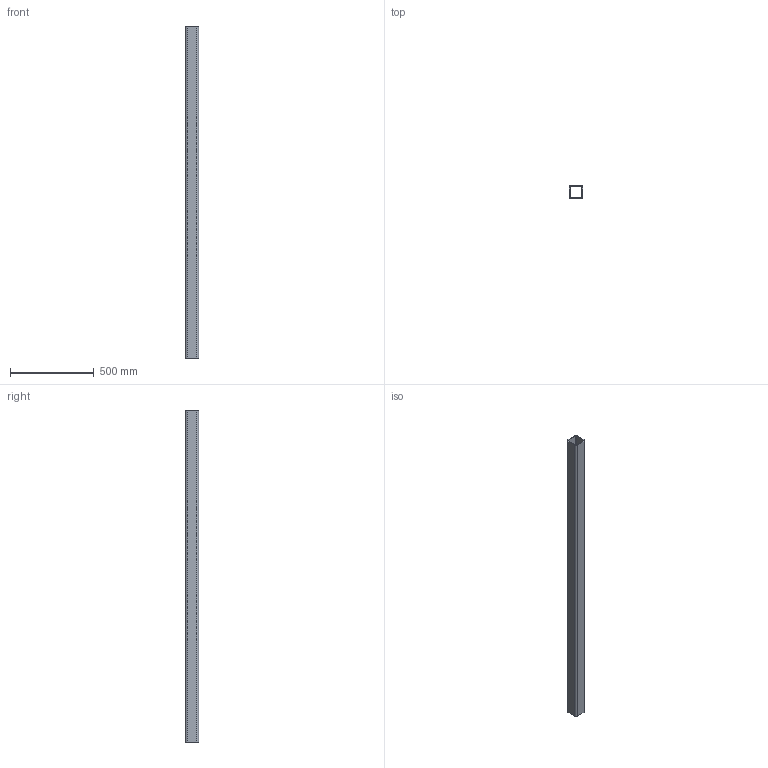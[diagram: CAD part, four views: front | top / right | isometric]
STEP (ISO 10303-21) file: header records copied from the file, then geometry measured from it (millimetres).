
FILE_DESCRIPTION((''),'1');
FILE_NAME('9','2001-04-17T',('jlue'),(''),'PRO/ENGINEER BY PARAMETRIC TECHNOLOGY CORPORATION, 9846','PRO/ENGINEER BY PARAMETRIC TECHNOLOGY CORPORATION, 9846','');
FILE_SCHEMA(('CONFIG_CONTROL_DESIGN'));
Length unit declared in the file: inch
Products named in the file (1): 9
Bounding box: 80.01 x 80.01 x 1987.55 mm (x, y, z)
Surface area: 1134106.4 mm2 (no closed solid volume)
Topology: 0 solids, 0 shells, 18 faces, 96 edges, 96 vertices
Faces by surface type: plane 10, cylinder 8
Entity records: 526 total; most frequent: DIRECTION 100, COMPOSITE_CURVE_SEGMENT 96, CARTESIAN_POINT 66, TRIMMED_CURVE 48, AXIS2_PLACEMENT_3D 34, VECTOR 32, LINE 32, CURVE_BOUNDED_SURFACE 18
